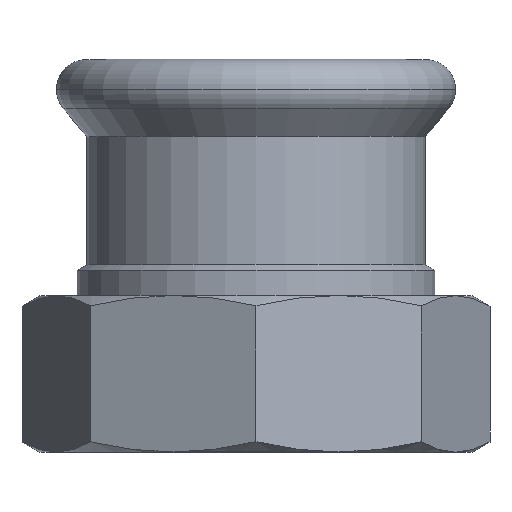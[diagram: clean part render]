
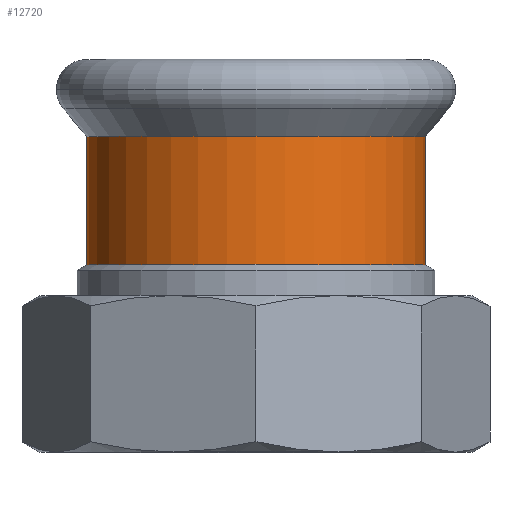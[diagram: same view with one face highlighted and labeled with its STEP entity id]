
A CAD part, top view. The second image highlights one B-rep face of the part: STEP entity #12720.
In plain terms, the highlighted cylindrical face has radius 22.7 mm (diameter 45.4 mm), a partial arc.
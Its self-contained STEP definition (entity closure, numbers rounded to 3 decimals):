
#10100=CARTESIAN_POINT('',(400.472,41.074,
0.));
#10110=VERTEX_POINT('',#10100);
#10190=CARTESIAN_POINT('',(355.072,41.074,0.));
#10200=VERTEX_POINT('',#10190);
#10230=CARTESIAN_POINT('',(377.772,41.074,0.));
#10240=DIRECTION('',(0.,-1.,0.));
#10250=DIRECTION('',(-1.,0.,0.));
#10260=AXIS2_PLACEMENT_3D('',#10230,#10240,#10250);
#10270=CIRCLE('',#10260,22.7);
#10280=EDGE_CURVE('',#10110,#10200,#10270,.T.);
#12170=CARTESIAN_POINT('',(400.472,58.261,0.));
#12180=VERTEX_POINT('',#12170);
#12360=CARTESIAN_POINT('',(355.072,58.261,
0.));
#12370=VERTEX_POINT('',#12360);
#12400=CARTESIAN_POINT('',(377.772,58.261,0.));
#12410=DIRECTION('',(0.,1.,0.));
#12420=DIRECTION('',(-1.,0.,0.));
#12430=AXIS2_PLACEMENT_3D('',#12400,#12410,#12420);
#12440=CIRCLE('',#12430,22.7);
#12500=CARTESIAN_POINT('',(377.772,47.859,0.));
#12510=DIRECTION('',(0.,-1.,0.));
#12520=DIRECTION('',(-1.,0.,0.));
#12530=AXIS2_PLACEMENT_3D('',#12500,#12510,#12520);
#12540=CYLINDRICAL_SURFACE('',#12530,22.7);
#12550=CARTESIAN_POINT('',(355.072,47.859,0.));
#12560=DIRECTION('',(0.,-1.,0.));
#12570=VECTOR('',#12560,1.);
#12580=LINE('',#12550,#12570);
#12590=EDGE_CURVE('',#12370,#10200,#12580,.T.);
#12600=ORIENTED_EDGE('',*,*,#12590,.T.);
#12610=EDGE_CURVE('',#12370,#12180,#12440,.T.);
#12620=ORIENTED_EDGE('',*,*,#12610,.F.);
#12630=CARTESIAN_POINT('',(400.472,47.859,
0.));
#12640=DIRECTION('',(0.,-1.,0.));
#12650=VECTOR('',#12640,1.);
#12660=LINE('',#12630,#12650);
#12670=EDGE_CURVE('',#12180,#10110,#12660,.T.);
#12680=ORIENTED_EDGE('',*,*,#12670,.F.);
#12690=ORIENTED_EDGE('',*,*,#10280,.F.);
#12700=EDGE_LOOP('',(#12690,#12680,#12620,#12600));
#12710=FACE_OUTER_BOUND('',#12700,.T.);
#12720=ADVANCED_FACE('',(#12710),#12540,.T.);
